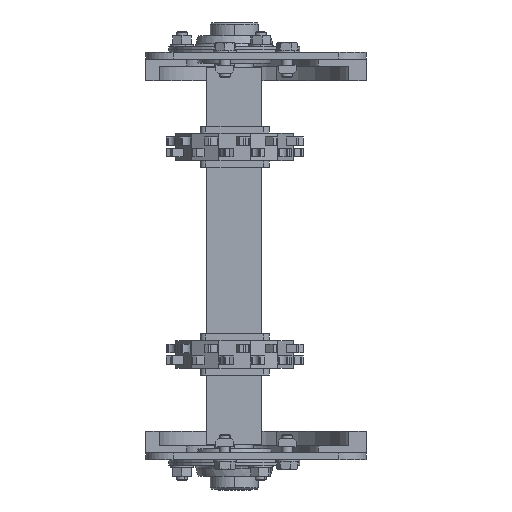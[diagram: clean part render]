
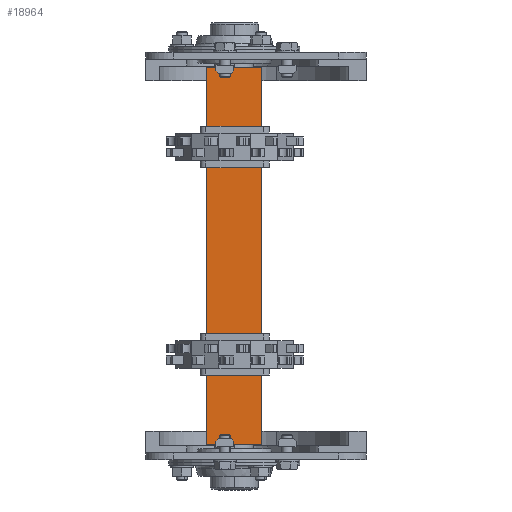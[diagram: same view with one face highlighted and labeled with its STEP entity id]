
A CAD part, left-side view. The second image highlights one B-rep face of the part: STEP entity #18964.
In plain terms, the highlighted planar face has unit normal (-1, 0, 0).
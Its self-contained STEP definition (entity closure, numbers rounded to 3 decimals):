
#13 = VECTOR ( 'NONE', #19557, 1000. ) ;
#157 = FACE_OUTER_BOUND ( 'NONE', #13512, .T. ) ;
#230 = CARTESIAN_POINT ( 'NONE',  ( -20., -20., 136.5 ) ) ;
#585 = LINE ( 'NONE', #17765, #13 ) ;
#1089 = CARTESIAN_POINT ( 'NONE',  ( -20., 20., 136.5 ) ) ;
#1297 = EDGE_CURVE ( 'NONE', #15750, #21343, #17666, .T. ) ;
#2366 = LINE ( 'NONE', #230, #17174 ) ;
#2766 = LINE ( 'NONE', #12172, #3337 ) ;
#3337 = VECTOR ( 'NONE', #5040, 1000. ) ;
#3395 = ORIENTED_EDGE ( 'NONE', *, *, #1297, .F. ) ;
#3689 = EDGE_CURVE ( 'NONE', #21343, #7137, #2366, .T. ) ;
#3835 = CARTESIAN_POINT ( 'NONE',  ( -20., 20., -136.5 ) ) ;
#5040 = DIRECTION ( 'NONE',  ( 0., -1., 0. ) ) ;
#6260 = EDGE_CURVE ( 'NONE', #15750, #16812, #585, .T. ) ;
#7137 = VERTEX_POINT ( 'NONE', #10732 ) ;
#7564 = CARTESIAN_POINT ( 'NONE',  ( -20., 20., 136.5 ) ) ;
#8067 = DIRECTION ( 'NONE',  ( 0., 1., 0. ) ) ;
#9279 = AXIS2_PLACEMENT_3D ( 'NONE', #16860, #18726, #8067 ) ;
#9315 = ORIENTED_EDGE ( 'NONE', *, *, #6260, .T. ) ;
#9528 = CARTESIAN_POINT ( 'NONE',  ( -20., -20., 136.5 ) ) ;
#10331 = ORIENTED_EDGE ( 'NONE', *, *, #3689, .F. ) ;
#10732 = CARTESIAN_POINT ( 'NONE',  ( -20., -20., -136.5 ) ) ;
#12172 = CARTESIAN_POINT ( 'NONE',  ( -20., 20., -136.5 ) ) ;
#12740 = DIRECTION ( 'NONE',  ( 0., 0., -1. ) ) ;
#12940 = VECTOR ( 'NONE', #21823, 1000. ) ;
#13512 = EDGE_LOOP ( 'NONE', ( #14212, #10331, #3395, #9315 ) ) ;
#14212 = ORIENTED_EDGE ( 'NONE', *, *, #17878, .T. ) ;
#15133 = PLANE ( 'NONE',  #9279 ) ;
#15750 = VERTEX_POINT ( 'NONE', #1089 ) ;
#16812 = VERTEX_POINT ( 'NONE', #3835 ) ;
#16860 = CARTESIAN_POINT ( 'NONE',  ( -20., 20., 136.5 ) ) ;
#17174 = VECTOR ( 'NONE', #12740, 1000. ) ;
#17666 = LINE ( 'NONE', #7564, #12940 ) ;
#17765 = CARTESIAN_POINT ( 'NONE',  ( -20., 20., 136.5 ) ) ;
#17878 = EDGE_CURVE ( 'NONE', #16812, #7137, #2766, .T. ) ;
#18726 = DIRECTION ( 'NONE',  ( 1., 0., 0. ) ) ;
#18964 = ADVANCED_FACE ( 'NONE', ( #157 ), #15133, .F. ) ;
#19557 = DIRECTION ( 'NONE',  ( 0., 0., -1. ) ) ;
#21343 = VERTEX_POINT ( 'NONE', #9528 ) ;
#21823 = DIRECTION ( 'NONE',  ( 0., -1., 0. ) ) ;
